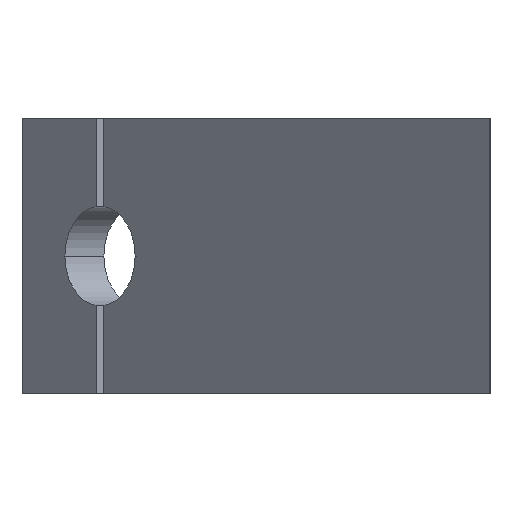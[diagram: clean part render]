
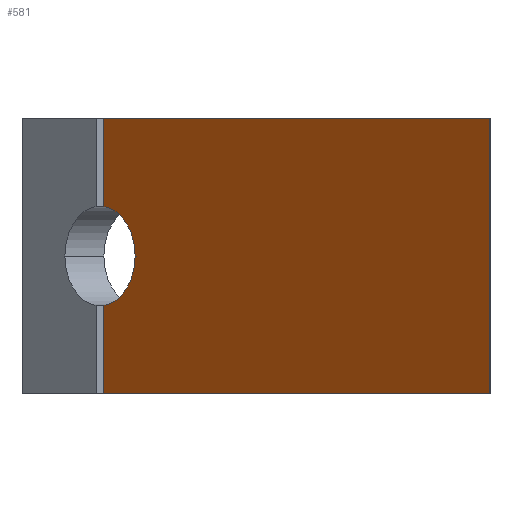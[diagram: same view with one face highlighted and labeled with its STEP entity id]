
A CAD part, left-side view. The second image highlights one B-rep face of the part: STEP entity #581.
In plain terms, the highlighted planar face has unit normal (-0.707, 0.707, 0).
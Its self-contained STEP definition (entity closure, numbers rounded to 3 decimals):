
#131 = VERTEX_POINT ( 'NONE', #409 ) ;
#153 = VECTOR ( 'NONE', #213, 1000. ) ;
#161 = LINE ( 'NONE', #474, #1037 ) ;
#213 = DIRECTION ( 'NONE',  ( -0.707, -0.707, 0. ) ) ;
#228 = ORIENTED_EDGE ( 'NONE', *, *, #1267, .T. ) ;
#230 = EDGE_CURVE ( 'NONE', #1353, #520, #1164, .T. ) ;
#240 = DIRECTION ( 'NONE',  ( 0.707, 0.707, 0. ) ) ;
#260 = DIRECTION ( 'NONE',  ( 0., 0., -1. ) ) ;
#303 = CARTESIAN_POINT ( 'NONE',  ( 35.002, 35.002, 21.972 ) ) ;
#312 = PLANE ( 'NONE',  #1253 ) ;
#345 = DIRECTION ( 'NONE',  ( 0.707, -0.707, 0. ) ) ;
#373 = CIRCLE ( 'NONE', #856, 4.5 ) ;
#388 = ORIENTED_EDGE ( 'NONE', *, *, #803, .T. ) ;
#401 = VERTEX_POINT ( 'NONE', #1092 ) ;
#409 = CARTESIAN_POINT ( 'NONE',  ( 35.002, 35.002, 30. ) ) ;
#417 = FACE_OUTER_BOUND ( 'NONE', #1084, .T. ) ;
#432 = ORIENTED_EDGE ( 'NONE', *, *, #230, .T. ) ;
#474 = CARTESIAN_POINT ( 'NONE',  ( 35.002, 35.002, 0. ) ) ;
#498 = CARTESIAN_POINT ( 'NONE',  ( 35.355, 35.355, 17.5 ) ) ;
#520 = VERTEX_POINT ( 'NONE', #1241 ) ;
#542 = CIRCLE ( 'NONE', #1307, 4.5 ) ;
#543 = ORIENTED_EDGE ( 'NONE', *, *, #700, .T. ) ;
#544 = DIRECTION ( 'NONE',  ( -0.707, -0.707, 0. ) ) ;
#574 = VERTEX_POINT ( 'NONE', #1356 ) ;
#580 = DIRECTION ( 'NONE',  ( 0., 0., -1. ) ) ;
#581 = ADVANCED_FACE ( 'NONE', ( #417 ), #312, .T. ) ;
#662 = EDGE_CURVE ( 'NONE', #520, #574, #974, .T. ) ;
#668 = LINE ( 'NONE', #1087, #866 ) ;
#700 = EDGE_CURVE ( 'NONE', #131, #934, #668, .T. ) ;
#803 = EDGE_CURVE ( 'NONE', #401, #1353, #161, .T. ) ;
#822 = ORIENTED_EDGE ( 'NONE', *, *, #1328, .T. ) ;
#856 = AXIS2_PLACEMENT_3D ( 'NONE', #498, #1020, #1234 ) ;
#866 = VECTOR ( 'NONE', #260, 1000. ) ;
#934 = VERTEX_POINT ( 'NONE', #303 ) ;
#959 = CARTESIAN_POINT ( 'NONE',  ( 0., 0., 0. ) ) ;
#974 = LINE ( 'NONE', #959, #1300 ) ;
#975 = CARTESIAN_POINT ( 'NONE',  ( 0., 0., 30. ) ) ;
#979 = DIRECTION ( 'NONE',  ( -0.707, 0.707, 0. ) ) ;
#997 = VERTEX_POINT ( 'NONE', #1069 ) ;
#1020 = DIRECTION ( 'NONE',  ( 0.707, -0.707, 0. ) ) ;
#1037 = VECTOR ( 'NONE', #580, 1000. ) ;
#1069 = CARTESIAN_POINT ( 'NONE',  ( 32.173, 32.173, 17.5 ) ) ;
#1073 = DIRECTION ( 'NONE',  ( 0.707, 0.707, 0. ) ) ;
#1084 = EDGE_LOOP ( 'NONE', ( #388, #432, #1194, #228, #543, #1334, #822 ) ) ;
#1087 = CARTESIAN_POINT ( 'NONE',  ( 35.002, 35.002, 0. ) ) ;
#1089 = EDGE_CURVE ( 'NONE', #934, #997, #373, .T. ) ;
#1092 = CARTESIAN_POINT ( 'NONE',  ( 35.002, 35.002, 13.028 ) ) ;
#1158 = CARTESIAN_POINT ( 'NONE',  ( 0., 0., 5. ) ) ;
#1164 = LINE ( 'NONE', #1158, #153 ) ;
#1168 = LINE ( 'NONE', #975, #1316 ) ;
#1174 = CARTESIAN_POINT ( 'NONE',  ( 0., 0., 0. ) ) ;
#1183 = CARTESIAN_POINT ( 'NONE',  ( 35.355, 35.355, 17.5 ) ) ;
#1194 = ORIENTED_EDGE ( 'NONE', *, *, #662, .T. ) ;
#1219 = CARTESIAN_POINT ( 'NONE',  ( 35.002, 35.002, 5. ) ) ;
#1234 = DIRECTION ( 'NONE',  ( 0.707, 0.707, 0. ) ) ;
#1241 = CARTESIAN_POINT ( 'NONE',  ( 0., 0., 5. ) ) ;
#1253 = AXIS2_PLACEMENT_3D ( 'NONE', #1174, #979, #544 ) ;
#1267 = EDGE_CURVE ( 'NONE', #574, #131, #1168, .T. ) ;
#1292 = DIRECTION ( 'NONE',  ( 0., 0., 1. ) ) ;
#1300 = VECTOR ( 'NONE', #1292, 1000. ) ;
#1307 = AXIS2_PLACEMENT_3D ( 'NONE', #1183, #345, #240 ) ;
#1316 = VECTOR ( 'NONE', #1073, 1000. ) ;
#1328 = EDGE_CURVE ( 'NONE', #997, #401, #542, .T. ) ;
#1334 = ORIENTED_EDGE ( 'NONE', *, *, #1089, .T. ) ;
#1353 = VERTEX_POINT ( 'NONE', #1219 ) ;
#1356 = CARTESIAN_POINT ( 'NONE',  ( 0., 0., 30. ) ) ;
